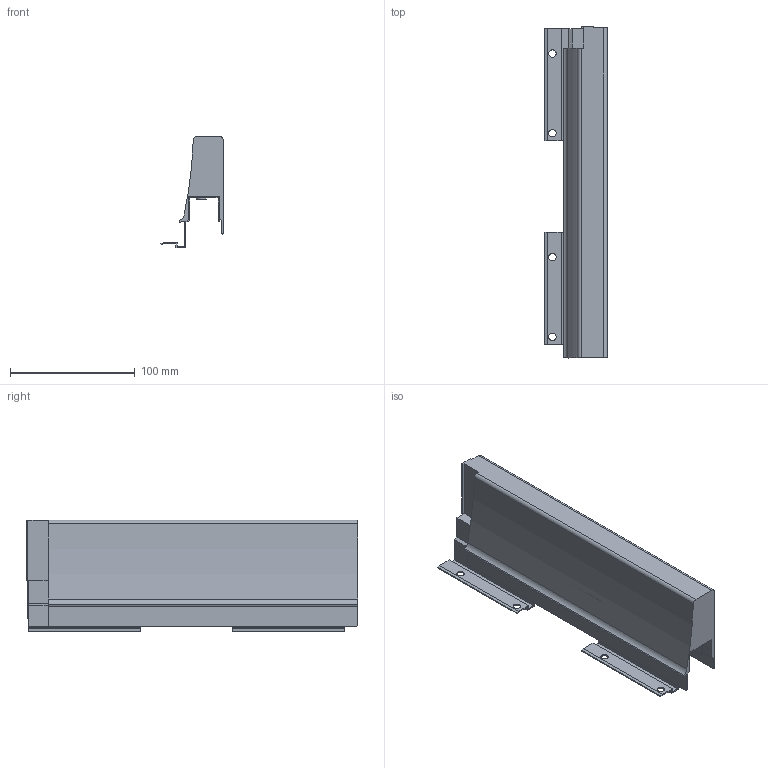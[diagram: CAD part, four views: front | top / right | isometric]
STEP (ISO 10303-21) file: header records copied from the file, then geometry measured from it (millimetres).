
FILE_DESCRIPTION (( 'STEP AP214' ), '1' );
FILE_NAME ('_XP Agantis Dekorseite H95 NL275 RE.step', '2010-07-08T06:05:21', ( 'grass' ), ( '' ), 'SwSTEP 2.0', 'SolidWorks 2010', '' );
FILE_SCHEMA (( 'AUTOMOTIVE_DESIGN' ));
Length unit declared in the file: millimetre
Products named in the file (1): _XP Agantis Dekorseite H95 NL275 RE
Bounding box: 50.01 x 266.5 x 89.5 mm (x, y, z)
Volume: 377346.6 mm3; surface area: 92892.1 mm2
Topology: 1 solids, 1 shells, 102 faces, 298 edges, 195 vertices
Faces by surface type: plane 79, cylinder 23
Entity records: 3399 total; most frequent: CARTESIAN_POINT 596, ORIENTED_EDGE 596, DIRECTION 551, EDGE_CURVE 298, VECTOR 251, LINE 251, VERTEX_POINT 195, AXIS2_PLACEMENT_3D 150
